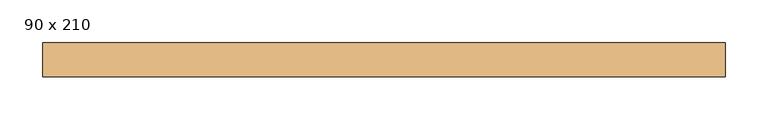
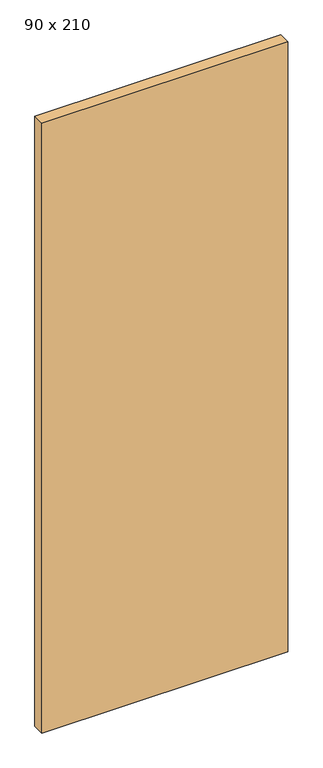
"""IFC4 building model written with IfcOpenShell, lengths in millimetres: door geometry, PORTA PIVOTANTE SEM BATENTES - 1 FOLHA : 90 x 210."""

from ifc_helpers import new_model, si_unit, origin, origin_with_axes, place, context, project, spatial, polyline, outline, extrude, source, transform, mapped, element, save


def door_90_x_210_280f9766(model_context):
    return source(origin(), model_context, "Body", "SweptSolid", [
        extrude(outline(polyline([(520.0, 75.0), (520.0, 35.0), (-280.0, 35.0), (-280.0, 75.0), (520.0, 75.0)])), origin_with_axes(), (0.0, 0.0, 1.0), 2100.0),
    ])


if __name__ == "__main__":
    model = new_model("IFC4")
    model_context = context("Model", 3, world=origin())
    ifc_project = project(units=[si_unit("LENGTHUNIT", "METRE", prefix="MILLI")], contexts=[model_context])
    site = spatial("IfcSite", under=ifc_project)
    building = spatial("IfcBuilding", under=site)
    placement = place(None, origin())
    door_90_x_210_shape = door_90_x_210_280f9766(model_context)
    element("IfcDoor", 1, ObjectType="PORTA PIVOTANTE SEM BATENTES - 1 FOLHA : 90 x 210", at=placement, inside=building, context=model_context, shape_type="MappedRepresentation", body=[
        mapped(door_90_x_210_shape, transform((0.0, 0.0, 0.0), x_axis=(1.0, 0.0, 0.0), y_axis=(0.0, 1.0, 0.0), z_axis=(0.0, 0.0, 1.0))),
    ])
    save(model, "model.ifc")
